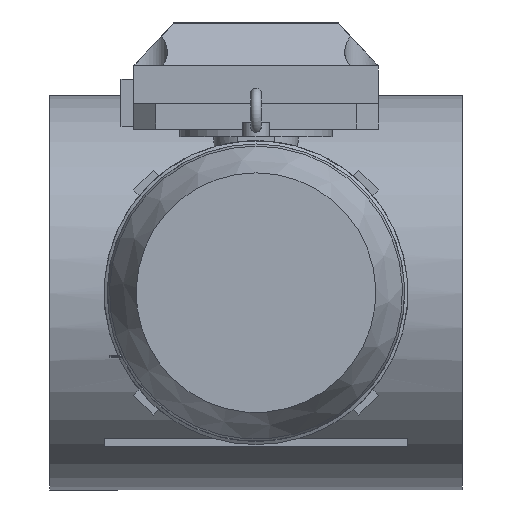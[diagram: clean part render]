
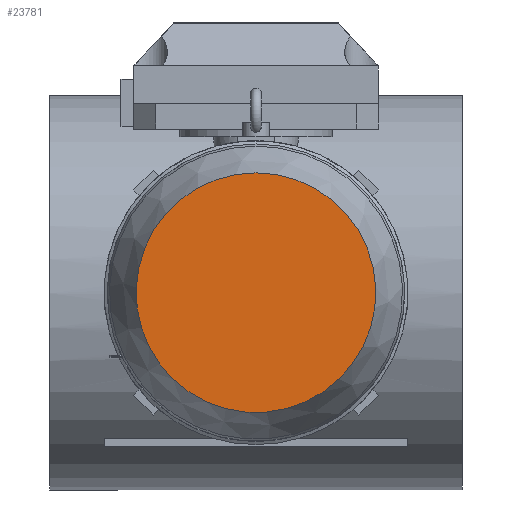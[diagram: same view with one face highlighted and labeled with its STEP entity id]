
A CAD part, left-side view. The second image highlights one B-rep face of the part: STEP entity #23781.
In plain terms, the highlighted planar face has unit normal (-1, 0, 0).
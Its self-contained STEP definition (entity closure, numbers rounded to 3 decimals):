
#2267=FACE_OUTER_BOUND('',#3462,.T.);
#3462=EDGE_LOOP('',(#19805,#19806));
#4725=CIRCLE('',#26031,223.605);
#4726=CIRCLE('',#26032,223.605);
#10888=VERTEX_POINT('',#42649);
#10889=VERTEX_POINT('',#42651);
#14410=EDGE_CURVE('',#10889,#10888,#4725,.T.);
#14411=EDGE_CURVE('',#10888,#10889,#4726,.T.);
#19805=ORIENTED_EDGE('',*,*,#14410,.T.);
#19806=ORIENTED_EDGE('',*,*,#14411,.T.);
#22085=PLANE('',#26035);
#23781=ADVANCED_FACE('',(#2267),#22085,.T.);
#26031=AXIS2_PLACEMENT_3D('',#42652,#31649,#31650);
#26032=AXIS2_PLACEMENT_3D('',#42653,#31651,#31652);
#26035=AXIS2_PLACEMENT_3D('',#42660,#31661,#31662);
#31649=DIRECTION('center_axis',(-1.,0.,0.));
#31650=DIRECTION('ref_axis',(0.,-0.559,0.829));
#31651=DIRECTION('center_axis',(-1.,0.,0.));
#31652=DIRECTION('ref_axis',(0.,-0.559,0.829));
#31661=DIRECTION('center_axis',(-1.,0.,0.));
#31662=DIRECTION('ref_axis',(0.,-1.,0.));
#42649=CARTESIAN_POINT('',(-1678.131,125.013,-183.79));
#42651=CARTESIAN_POINT('',(-1678.131,0.,225.21));
#42652=CARTESIAN_POINT('Origin',(-1678.131,0.,
1.605));
#42653=CARTESIAN_POINT('Origin',(-1678.131,0.,
1.605));
#42660=CARTESIAN_POINT('Origin',(-1678.131,0.,
247.57));
